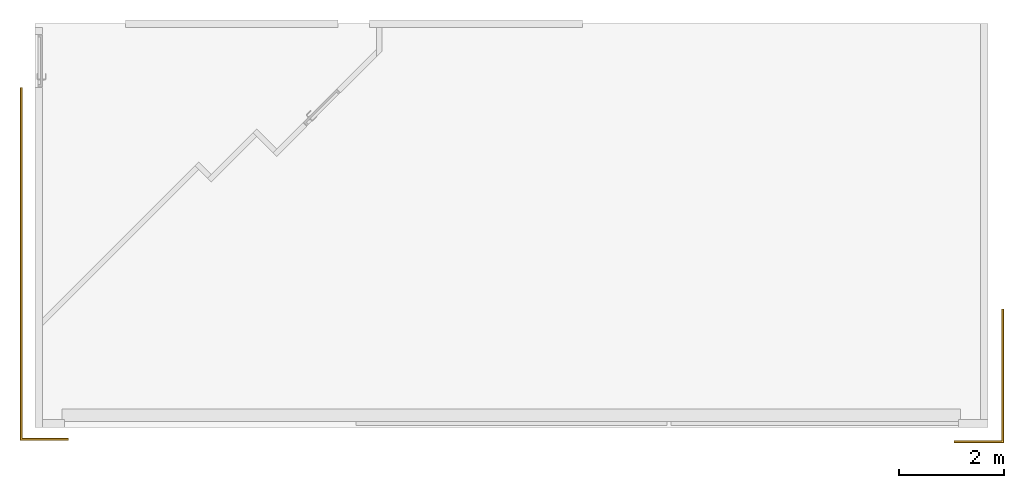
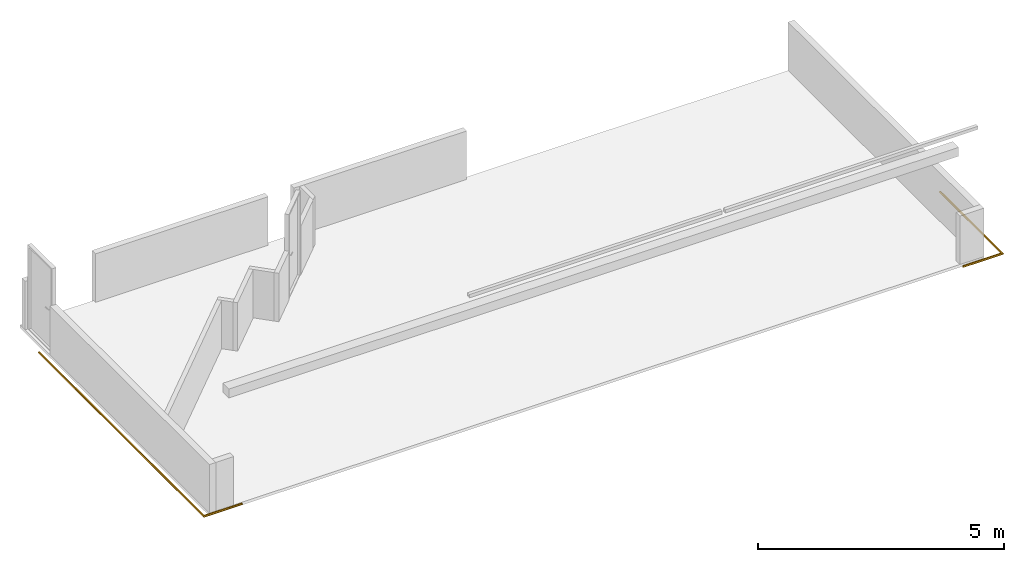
# One storey, part 2 of 3: 2 railings.
"""IFC2X3 building model written with IfcOpenShell, lengths in millimetres."""

from ifc_helpers import new_model, entity, si_unit, converted_unit, derived_unit, direction, frame, origin_with_axes, place, context, subcontext, project, spatial, faceted_brep, material, type_object, element, save


model = new_model("IFC2X3")

# Units and contexts
model_context = context("Model", 3, precision=0.01, world=frame((0.0, 4.29681676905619e-09, 0.0)), true_north=direction((4.01073788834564e-13, 1.0)))
plan_context = context("Plan", 3, precision=0.01, world=frame((0.0, 4.29681676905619e-09, 0.0)), true_north=direction((4.01073788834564e-13, 1.0)))
body_context = subcontext(model_context, "Body", "Model", "MODEL_VIEW")
ifc_project = project(units=[converted_unit("PLANEANGLEUNIT", "DEGREE", entity("IfcPositiveLengthMeasure", 0.0174532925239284), si_unit("PLANEANGLEUNIT", "RADIAN"), dimensions=[0, 0, 0, 0, 0, 0, 0]), si_unit("AREAUNIT", "SQUARE_METRE"), si_unit("LENGTHUNIT", "METRE", prefix="MILLI"), si_unit("MASSUNIT", "GRAM", prefix="KILO"), si_unit("POWERUNIT", "WATT"), si_unit("PRESSUREUNIT", "PASCAL", prefix="KILO"), si_unit("FORCEUNIT", "NEWTON", prefix="KILO"), si_unit("ELECTRICVOLTAGEUNIT", "VOLT"), si_unit("ELECTRICCURRENTUNIT", "AMPERE"), si_unit("THERMODYNAMICTEMPERATUREUNIT", "DEGREE_CELSIUS"), si_unit("TIMEUNIT", "SECOND"), si_unit("VOLUMEUNIT", "CUBIC_METRE"), derived_unit("LINEARVELOCITYUNIT", [(si_unit("LENGTHUNIT", "METRE"), 1), (si_unit("TIMEUNIT", "SECOND"), -1)]), derived_unit("VOLUMETRICFLOWRATEUNIT", [(si_unit("VOLUMEUNIT", "CUBIC_METRE"), 1), (si_unit("TIMEUNIT", "SECOND"), -1)]), derived_unit("THERMALTRANSMITTANCEUNIT", [(si_unit("POWERUNIT", "WATT"), 1), (si_unit("THERMODYNAMICTEMPERATUREUNIT", "KELVIN"), -1), (si_unit("AREAUNIT", "SQUARE_METRE"), -1)]), derived_unit("SOUNDPRESSUREUNIT", [(si_unit("PRESSUREUNIT", "PASCAL"), 1)])], contexts=[model_context, plan_context])

# Site, building, storey
site_placement = place(None, origin_with_axes())
site = spatial("IfcSite", under=ifc_project, at=site_placement, Name="ENGM", CompositionType="ELEMENT")
building_placement = place(site_placement, origin_with_axes())
building = spatial("IfcBuilding", under=site, at=building_placement, Name="TS", CompositionType="ELEMENT")
storey_placement = place(building_placement, frame((0.0, 0.0, 204000.0), z_axis=(0.0, 0.0, 1.0), x_axis=(1.0, 0.0, 0.0)))
storey = spatial("IfcBuildingStorey", under=building, at=storey_placement, Name="Nivå D", CompositionType="ELEMENT", Elevation=204000.0)

# Railings
ifc_material = material(Name="<Unnamed>")
railing_type = type_object("IfcRailingType", Name="Railing:A247 Fendring - FE-S01 - Avviser, montert m. brakett mot dekke, 1 rør Ø=49 mm", PredefinedType="NOTDEFINED")
railing_1_placement = place(storey_placement, frame((612424.500000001, 397434.904727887, 120.404727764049), z_axis=(0.0, 0.0, 1.0), x_axis=(1.0, 0.0, 0.0)))
element("IfcRailing", 1, at=railing_1_placement, inside=storey, type_object=railing_type, material=ifc_material, Name="Railing:A247 Fendring - FE-S01 - Avviser, montert m. brakett mot dekke, 1 rør Ø=49 mm", ObjectType="Railing:A247 Fendring - FE-S01 - Avviser, montert m. brakett mot dekke, 1 rør Ø=49 mm", PredefinedType="NOTDEFINED", context=body_context, shape_type="Brep", body=[
    faceted_brep([(937.5, 2551.59527223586, 48.2459073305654), (940.625, 2551.59527223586, 42.8332485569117), (943.75, 2551.59527223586, 37.420589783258), (946.875, 2551.59527223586, 32.0079310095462), (950.0, 2551.59527223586, 26.5952722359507), (946.875, 2551.59527223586, 21.182613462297), (943.75, 2551.59527223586, 15.7699546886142), (940.625, 2551.59527223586, 10.3572959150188), (937.5, 2551.59527223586, 4.94463714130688), (931.25, 2551.59527223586, 4.94463714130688), (925.0, 2551.59527223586, 4.94463714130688), (918.75, 2551.59527223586, 4.94463714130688), (912.5, 2551.59527223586, 4.94463714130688), (909.375, 2551.59527223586, 10.3572959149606), (906.25, 2551.59527223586, 15.7699546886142), (903.125, 2551.59527223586, 21.1826134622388), (900.0, 2551.59527223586, 26.5952722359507), (902.28215977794, 2551.59527223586, 30.5480889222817), (904.56431955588, 2551.59527223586, 34.5009056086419), (908.53215977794, 2551.59527223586, 41.3734064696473), (912.5, 2551.59527223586, 48.2459073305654), (918.75, 2551.59527223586, 48.2459073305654), (925.0, 2551.59527223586, 48.2459073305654), (931.25, 2551.59527223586, 48.2459073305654), (900.0, 51.5952722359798, 26.5952722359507), (903.125, 48.4702722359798, 32.0079310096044), (906.25, 45.3452722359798, 37.420589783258), (909.374999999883, 42.2202722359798, 42.8332485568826), (912.499999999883, 39.0952722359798, 48.2459073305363), (925.0, 26.5952722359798, 48.2459073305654), (918.749999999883, 32.8452722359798, 48.2459073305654), (0.0, 32.845272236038, 48.2459073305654), (0.0, 39.095272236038, 48.2459073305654), (0.0, 26.5952722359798, 48.2459073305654), (0.0, 20.345272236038, 48.2459073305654), (931.249999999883, 20.3452722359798, 48.2459073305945), (0.0, 14.095272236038, 48.2459073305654), (937.499999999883, 14.0952722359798, 48.2459073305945), (947.717843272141, 3.8774289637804, 30.5480836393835), (950.0, 1.59527223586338, 26.5952722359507), (940.624999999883, 10.9702722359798, 42.8332485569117), (941.467843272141, 10.1274289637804, 41.37340118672), (943.749999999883, 7.84527223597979, 37.420589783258), (945.435686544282, 6.15958569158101, 34.5008950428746), (946.937130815, 4.65814142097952, 31.9003172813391), (947.717843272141, 3.8774289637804, 22.6424608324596), (946.937130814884, 4.65814142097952, 21.2902271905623), (943.87426163, 7.72101060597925, 15.9851821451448), (943.75, 7.84527223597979, 15.7699546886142), (940.624999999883, 10.9702722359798, 10.3572959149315), (937.499999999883, 14.0952722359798, 4.94463714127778), (912.499999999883, 39.0952722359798, 4.94463714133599), (909.374999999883, 42.2202722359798, 10.3572959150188), (906.25, 45.3452722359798, 15.7699546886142), (903.125, 48.4702722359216, 21.182613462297), (918.749999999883, 32.8452722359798, 4.94463714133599), (925.0, 26.5952722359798, 4.94463714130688), (931.249999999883, 20.3452722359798, 4.94463714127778), (0.0, 14.095272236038, 4.94463714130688), (0.0, 20.345272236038, 4.94463714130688), (0.0, 26.5952722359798, 4.94463714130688), (0.0, 32.8452722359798, 4.94463714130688), (0.0, 39.095272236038, 4.94463714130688), (0.0, 1.595272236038, 26.5952722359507), (0.0, 4.720272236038, 32.0079310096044), (0.0, 7.845272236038, 37.420589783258), (0.0, 10.970272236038, 42.8332485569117), (0.0, 42.2823735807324, 42.7256858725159), (0.0, 45.4694749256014, 37.2054644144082), (0.0, 48.5323735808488, 31.9003683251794), (0.0, 51.595272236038, 26.5952722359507), (0.0, 48.5323735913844, 21.2901761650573), (0.0, 45.3452722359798, 15.7699546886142), (0.0, 42.2202722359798, 10.3572959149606), (0.0, 10.970272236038, 10.3572959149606), (0.0, 7.845272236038, 15.7699546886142), (0.0, 4.720272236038, 21.182613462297)], [[[0, 1, 2, 3, 4, 5, 6, 7, 8, 9, 10, 11, 12, 13, 14, 15, 16, 17, 18, 19, 20, 21, 22, 23]], [[20, 19, 18, 17, 16, 24, 25, 26, 27, 28]], [[22, 29, 23]], [[22, 30, 29]], [[30, 22, 21]], [[21, 28, 30]], [[21, 20, 28]], [[28, 31, 30]], [[32, 31, 28]], [[30, 31, 33]], [[33, 34, 29]], [[33, 29, 30]], [[35, 29, 34]], [[36, 35, 34]], [[35, 36, 37]], [[37, 0, 35]], [[35, 0, 23]], [[29, 35, 23]], [[38, 39, 4, 3, 2, 1, 0, 37, 40, 41, 42, 43, 44]], [[4, 39, 45, 46, 47, 48, 49, 50, 8, 7, 6, 5]], [[14, 13, 12, 51, 52, 53, 54, 24, 16, 15]], [[10, 55, 11]], [[56, 55, 10]], [[10, 9, 56]], [[56, 9, 57]], [[8, 57, 9]], [[8, 50, 57]], [[50, 58, 57]], [[57, 58, 59]], [[56, 57, 59]], [[60, 56, 59]], [[60, 55, 56]], [[55, 60, 61]], [[61, 51, 55]], [[61, 62, 51]], [[51, 12, 11]], [[51, 11, 55]], [[63, 64, 65, 66, 36, 34, 33, 31, 32, 67, 68, 69, 70, 71, 72, 73, 62, 61, 60, 59, 58, 74, 75, 76]], [[75, 74, 58, 50, 49, 48, 47, 46, 45, 39, 63, 76]], [[71, 70, 24, 54, 53, 52, 51, 62, 73, 72]], [[26, 25, 24, 70, 69, 68, 67, 32, 28, 27]], [[66, 65, 64, 63, 39, 38, 44, 43, 42, 41, 40, 37, 36]]]),
])
railing_2_placement = place(storey_placement, frame((594642.330804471, 397484.904727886, 120.404727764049), z_axis=(0.0, 0.0, 1.0), x_axis=(1.0, 0.0, 0.0)))
element("IfcRailing", 2, at=railing_2_placement, inside=storey, type_object=railing_type, material=ifc_material, Name="Railing:A247 Fendring - FE-S01 - Avviser, montert m. brakett mot dekke, 1 rør Ø=49 mm", ObjectType="Railing:A247 Fendring - FE-S01 - Avviser, montert m. brakett mot dekke, 1 rør Ø=49 mm", PredefinedType="NOTDEFINED", context=body_context, shape_type="Brep", body=[
    faceted_brep([(39.0952722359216, 6725.09527212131, 48.2459073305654), (42.2202722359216, 6725.09527212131, 42.8332485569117), (45.3452722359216, 6725.09527212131, 37.420589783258), (48.1330829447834, 6725.09527212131, 32.5919599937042), (51.5952722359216, 6725.09527212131, 26.5952722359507), (48.1330829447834, 6725.09527212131, 20.5985844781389), (44.6708936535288, 6725.09527212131, 14.6018967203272), (41.883082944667, 6725.09527212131, 9.7732669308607), (39.0952722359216, 6725.09527212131, 4.94463714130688), (32.8452722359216, 6725.09527212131, 4.94463714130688), (26.5952722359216, 6725.09527212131, 4.94463714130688), (20.345272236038, 6725.09527212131, 4.94463714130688), (14.0952722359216, 6725.09527212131, 4.94463714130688), (10.9702722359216, 6725.09527212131, 10.3572959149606), (7.84527223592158, 6725.09527212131, 15.7699546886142), (5.0574615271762, 6725.09527212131, 20.5985844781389), (1.59527223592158, 6725.09527212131, 26.5952722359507), (4.72027223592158, 6725.09527212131, 32.0079310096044), (7.84527223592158, 6725.09527212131, 37.420589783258), (10.9702722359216, 6725.09527212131, 42.8332485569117), (14.0952722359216, 6725.09527212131, 48.2459073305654), (20.3452722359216, 6725.09527212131, 48.2459073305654), (26.5952722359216, 6725.09527212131, 48.2459073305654), (32.845272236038, 6725.09527212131, 48.2459073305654), (20.3452722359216, 20.345272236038, 4.94463714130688), (14.0952722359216, 14.095272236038, 4.94463714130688), (26.5952722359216, 26.595272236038, 4.94463714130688), (921.669195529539, 14.095272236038, 4.94463714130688), (921.669195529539, 20.345272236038, 4.94463714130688), (921.669195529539, 26.595272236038, 4.94463714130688), (32.8452722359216, 32.845272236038, 4.94463714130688), (39.0952722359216, 39.095272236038, 4.94463714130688), (921.669195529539, 32.845272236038, 4.94463714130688), (921.669195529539, 39.095272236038, 4.94463714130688), (45.3452722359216, 45.345272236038, 15.7699546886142), (42.2202722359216, 42.220272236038, 10.3572959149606), (51.5952722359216, 51.595272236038, 26.5952722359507), (48.4327830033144, 48.4327830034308, 21.1176802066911), (48.1330836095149, 48.1330836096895, 20.5985856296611), (11.3074608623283, 11.3074608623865, 9.77326808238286), (10.9702722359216, 10.970272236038, 10.3572959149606), (8.5196494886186, 8.51964948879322, 14.6018990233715), (7.84527223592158, 7.845272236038, 15.7699546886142), (5.0574608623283, 5.05746086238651, 20.5985856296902), (4.75776146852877, 4.75776146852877, 21.1176802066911), (1.59527223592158, 1.595272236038, 26.5952722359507), (39.0952722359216, 39.095272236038, 48.2459073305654), (32.8452722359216, 32.845272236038, 48.2459073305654), (921.669195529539, 32.845272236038, 48.2459073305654), (921.669195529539, 39.095272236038, 48.2459073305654), (26.5952722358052, 26.5952722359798, 48.2459073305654), (20.345272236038, 20.345272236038, 48.2459073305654), (14.0952722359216, 14.095272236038, 48.2459073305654), (921.669195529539, 14.095272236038, 48.2459073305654), (921.669195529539, 20.345272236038, 48.2459073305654), (921.669195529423, 26.5952722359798, 48.2459073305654), (42.220272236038, 42.220272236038, 42.8332485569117), (45.3452722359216, 45.345272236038, 37.420589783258), (48.4702722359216, 48.470272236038, 32.0079310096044), (4.75776148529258, 4.75776148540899, 32.072864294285), (5.0574608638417, 5.05746086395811, 32.5919588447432), (7.84527223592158, 7.845272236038, 37.420589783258), (7.92025073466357, 7.92025073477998, 37.550456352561), (10.9702722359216, 10.970272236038, 42.8332485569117), (921.669195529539, 51.595272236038, 26.5952722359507), (921.669195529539, 48.4327505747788, 32.072920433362), (921.669195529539, 45.345272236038, 37.420589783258), (921.669195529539, 42.220272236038, 42.8332485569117), (921.669195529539, 10.970272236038, 42.8332485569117), (921.669195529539, 7.845272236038, 37.420589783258), (921.669195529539, 4.75779390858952, 32.0729204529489), (921.669195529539, 1.595272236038, 26.5952722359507), (921.669195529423, 4.720272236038, 21.182613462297), (921.669195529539, 7.845272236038, 15.7699546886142), (921.669195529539, 10.970272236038, 10.3572959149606), (921.669195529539, 42.1827505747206, 10.292306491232), (921.669195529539, 45.2702289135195, 15.6399758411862), (921.669195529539, 48.4327505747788, 21.1176240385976)], [[[0, 1, 2, 3, 4, 5, 6, 7, 8, 9, 10, 11, 12, 13, 14, 15, 16, 17, 18, 19, 20, 21, 22, 23]], [[24, 12, 11]], [[25, 12, 24]], [[26, 24, 11]], [[24, 27, 25]], [[27, 24, 28]], [[24, 26, 28]], [[29, 28, 26]], [[10, 26, 11]], [[10, 30, 26]], [[30, 10, 9]], [[9, 31, 30]], [[9, 8, 31]], [[31, 32, 30]], [[33, 32, 31]], [[30, 32, 29]], [[29, 26, 30]], [[34, 35, 31, 8, 7, 6, 5, 4, 36, 37, 38]], [[14, 13, 12, 25, 39, 40, 41, 42, 43, 44, 45, 16, 15]], [[46, 23, 47]], [[46, 0, 23]], [[48, 46, 47]], [[48, 49, 46]], [[22, 47, 23]], [[50, 47, 22]], [[22, 21, 50]], [[50, 21, 51]], [[20, 51, 21]], [[20, 52, 51]], [[52, 53, 51]], [[51, 53, 54]], [[55, 50, 54]], [[50, 51, 54]], [[55, 47, 50]], [[47, 55, 48]], [[36, 4, 3, 2, 1, 0, 46, 56, 57, 58]], [[52, 20, 19, 18, 17, 16, 45, 59, 60, 61, 62, 63]], [[64, 65, 66, 67, 49, 48, 55, 54, 53, 68, 69, 70, 71, 72, 73, 74, 27, 28, 29, 32, 33, 75, 76, 77]], [[77, 76, 75, 33, 31, 35, 34, 38, 37, 36, 64]], [[45, 44, 43, 42, 41, 40, 39, 25, 27, 74, 73, 72, 71]], [[69, 68, 53, 52, 63, 62, 61, 60, 59, 45, 71, 70]], [[65, 64, 36, 58, 57, 56, 46, 49, 67, 66]]]),
])

save(model, "model.ifc")
